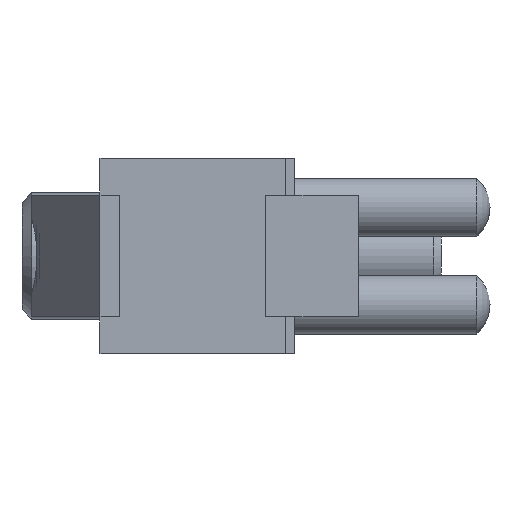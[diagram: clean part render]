
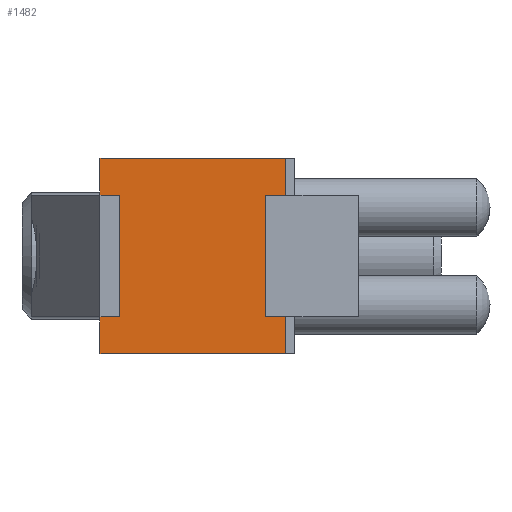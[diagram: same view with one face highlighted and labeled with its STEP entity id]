
A CAD part, left-side view. The second image highlights one B-rep face of the part: STEP entity #1482.
In plain terms, the highlighted planar face has unit normal (-1, 0, 0).
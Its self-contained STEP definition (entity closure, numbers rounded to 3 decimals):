
#171=ORIENTED_EDGE('',*,*,#541,.F.);
#172=ORIENTED_EDGE('',*,*,#542,.F.);
#173=ORIENTED_EDGE('',*,*,#543,.F.);
#174=ORIENTED_EDGE('',*,*,#544,.T.);
#175=ORIENTED_EDGE('',*,*,#545,.T.);
#176=ORIENTED_EDGE('',*,*,#546,.F.);
#177=ORIENTED_EDGE('',*,*,#547,.T.);
#178=ORIENTED_EDGE('',*,*,#548,.T.);
#179=ORIENTED_EDGE('',*,*,#549,.T.);
#180=ORIENTED_EDGE('',*,*,#550,.F.);
#181=ORIENTED_EDGE('',*,*,#551,.F.);
#182=ORIENTED_EDGE('',*,*,#552,.T.);
#541=EDGE_CURVE('',#726,#727,#865,.T.);
#542=EDGE_CURVE('',#728,#726,#866,.T.);
#543=EDGE_CURVE('',#729,#728,#867,.T.);
#544=EDGE_CURVE('',#729,#730,#868,.T.);
#545=EDGE_CURVE('',#730,#731,#869,.T.);
#546=EDGE_CURVE('',#732,#731,#870,.T.);
#547=EDGE_CURVE('',#732,#733,#871,.T.);
#548=EDGE_CURVE('',#733,#734,#872,.T.);
#549=EDGE_CURVE('',#734,#735,#873,.T.);
#550=EDGE_CURVE('',#736,#735,#874,.T.);
#551=EDGE_CURVE('',#737,#736,#875,.T.);
#552=EDGE_CURVE('',#737,#727,#876,.T.);
#726=VERTEX_POINT('',#2305);
#727=VERTEX_POINT('',#2306);
#728=VERTEX_POINT('',#2308);
#729=VERTEX_POINT('',#2310);
#730=VERTEX_POINT('',#2312);
#731=VERTEX_POINT('',#2314);
#732=VERTEX_POINT('',#2316);
#733=VERTEX_POINT('',#2318);
#734=VERTEX_POINT('',#2320);
#735=VERTEX_POINT('',#2322);
#736=VERTEX_POINT('',#2324);
#737=VERTEX_POINT('',#2326);
#865=LINE('',#2304,#991);
#866=LINE('',#2307,#992);
#867=LINE('',#2309,#993);
#868=LINE('',#2311,#994);
#869=LINE('',#2313,#995);
#870=LINE('',#2315,#996);
#871=LINE('',#2317,#997);
#872=LINE('',#2319,#998);
#873=LINE('',#2321,#999);
#874=LINE('',#2323,#1000);
#875=LINE('',#2325,#1001);
#876=LINE('',#2327,#1002);
#991=VECTOR('',#1850,1000.);
#992=VECTOR('',#1851,1000.);
#993=VECTOR('',#1852,1000.);
#994=VECTOR('',#1853,1000.);
#995=VECTOR('',#1854,1000.);
#996=VECTOR('',#1855,1000.);
#997=VECTOR('',#1856,1000.);
#998=VECTOR('',#1857,1000.);
#999=VECTOR('',#1858,1000.);
#1000=VECTOR('',#1859,1000.);
#1001=VECTOR('',#1860,1000.);
#1002=VECTOR('',#1861,1000.);
#1117=EDGE_LOOP('',(#171,#172,#173,#174,#175,#176,#177,#178,#179,#180,#181,
#182));
#1269=FACE_BOUND('',#1117,.T.);
#1421=PLANE('',#1682);
#1482=ADVANCED_FACE('',(#1269),#1421,.F.);
#1682=AXIS2_PLACEMENT_3D('',#2303,#1848,#1849);
#1848=DIRECTION('',(1.,0.,0.));
#1849=DIRECTION('',(0.,0.,-1.));
#1850=DIRECTION('',(0.,1.,0.));
#1851=DIRECTION('',(0.,0.,1.));
#1852=DIRECTION('',(0.,-1.,0.));
#1853=DIRECTION('',(0.,0.,-1.));
#1854=DIRECTION('',(0.,-1.,0.));
#1855=DIRECTION('',(0.,0.,-1.));
#1856=DIRECTION('',(0.,1.,0.));
#1857=DIRECTION('',(0.,0.,1.));
#1858=DIRECTION('',(0.,-1.,0.));
#1859=DIRECTION('',(0.,0.,-1.));
#1860=DIRECTION('',(0.,-1.,0.));
#1861=DIRECTION('',(0.,0.,-1.));
#2303=CARTESIAN_POINT('',(0.,20.,10.));
#2304=CARTESIAN_POINT('',(0.,20.,6.25));
#2305=CARTESIAN_POINT('',(0.,18.,6.25));
#2306=CARTESIAN_POINT('',(0.,20.,6.25));
#2307=CARTESIAN_POINT('',(0.,18.,10.));
#2308=CARTESIAN_POINT('',(0.,18.,-6.25));
#2309=CARTESIAN_POINT('',(0.,20.,-6.25));
#2310=CARTESIAN_POINT('',(0.,20.,-6.25));
#2311=CARTESIAN_POINT('',(0.,20.,10.));
#2312=CARTESIAN_POINT('',(0.,20.,-10.));
#2313=CARTESIAN_POINT('',(0.,20.,-10.));
#2314=CARTESIAN_POINT('',(0.,1.,-10.));
#2315=CARTESIAN_POINT('',(0.,1.,10.));
#2316=CARTESIAN_POINT('',(0.,1.,-6.25));
#2317=CARTESIAN_POINT('',(0.,20.,-6.25));
#2318=CARTESIAN_POINT('',(0.,3.,-6.25));
#2319=CARTESIAN_POINT('',(0.,3.,10.));
#2320=CARTESIAN_POINT('',(0.,3.,6.25));
#2321=CARTESIAN_POINT('',(0.,20.,6.25));
#2322=CARTESIAN_POINT('',(0.,1.,6.25));
#2323=CARTESIAN_POINT('',(0.,1.,10.));
#2324=CARTESIAN_POINT('',(0.,1.,10.));
#2325=CARTESIAN_POINT('',(0.,20.,10.));
#2326=CARTESIAN_POINT('',(0.,20.,10.));
#2327=CARTESIAN_POINT('',(0.,20.,10.));
